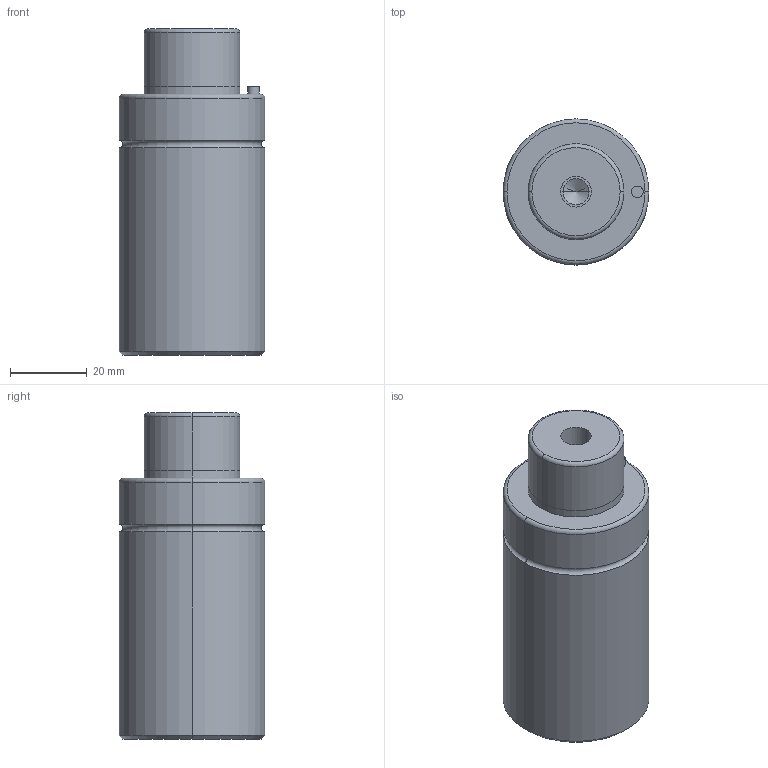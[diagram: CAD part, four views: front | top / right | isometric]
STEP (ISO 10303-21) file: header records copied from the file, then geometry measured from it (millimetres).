
FILE_DESCRIPTION(/* description */ (''),/* implementation_level */ '2;1');
FILE_NAME(/* name */ '3d_gsm38-15_03929_r00.stp',/* time_stamp */ '2011-01-10T14:15:16+09:00',/* author */ ('MISUMI'),/* organization */ (''),/* preprocessor_version */ 'ST-DEVELOPER v11',/* originating_system */ 'UGS - NX 5.0',/* authorisation */ '');
FILE_SCHEMA (('CONFIG_CONTROL_DESIGN'));
Length unit declared in the file: millimetre
Products named in the file (1): 3d_gsm38-15_03929_r00
Bounding box: 38 x 38 x 85 mm (x, y, z)
Volume: 83409.5 mm3; surface area: 12698.5 mm2
Topology: 1 solids, 1 shells, 50 faces, 106 edges, 60 vertices
Faces by surface type: cylinder 26, cone 10, plane 8, torus 6
Entity records: 1382 total; most frequent: DIRECTION 262, CARTESIAN_POINT 209, ORIENTED_EDGE 196, AXIS2_PLACEMENT_3D 113, EDGE_CURVE 98, CIRCLE 62, EDGE_LOOP 60, VERTEX_POINT 60
